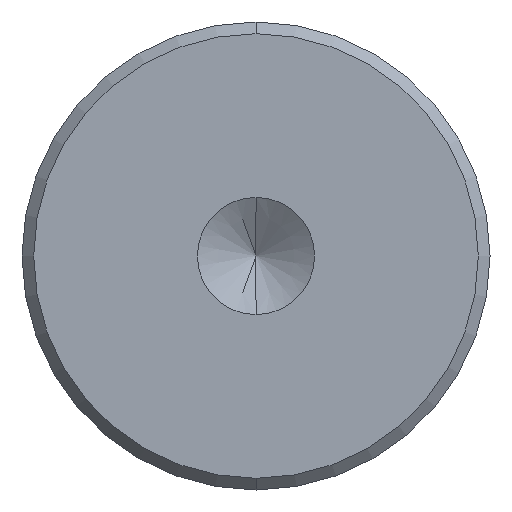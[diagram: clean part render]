
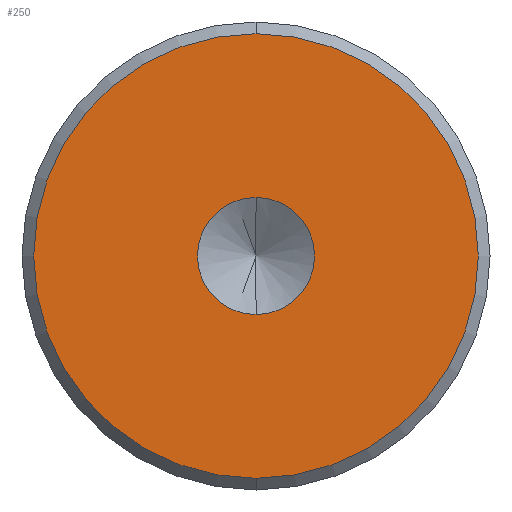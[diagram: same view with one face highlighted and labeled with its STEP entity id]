
A CAD part, front view. The second image highlights one B-rep face of the part: STEP entity #250.
In plain terms, the highlighted planar face has unit normal (0, -1, 0).
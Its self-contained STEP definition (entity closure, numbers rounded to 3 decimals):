
#14 = VERTEX_POINT ( 'NONE', #154 ) ;
#16 = CARTESIAN_POINT ( 'NONE',  ( 0., 0., 0. ) ) ;
#27 = CIRCLE ( 'NONE', #315, 2.5 ) ;
#40 = AXIS2_PLACEMENT_3D ( 'NONE', #475, #42, #211 ) ;
#42 = DIRECTION ( 'NONE',  ( 0., -1., 0. ) ) ;
#53 = DIRECTION ( 'NONE',  ( 0., -1., 0. ) ) ;
#62 = CARTESIAN_POINT ( 'NONE',  ( 0., 0., 0. ) ) ;
#65 = DIRECTION ( 'NONE',  ( 0., 0., 1. ) ) ;
#84 = FACE_OUTER_BOUND ( 'NONE', #212, .T. ) ;
#103 = DIRECTION ( 'NONE',  ( 0., -1., 0. ) ) ;
#109 = VERTEX_POINT ( 'NONE', #401 ) ;
#131 = AXIS2_PLACEMENT_3D ( 'NONE', #16, #53, #188 ) ;
#146 = AXIS2_PLACEMENT_3D ( 'NONE', #213, #360, #241 ) ;
#153 = DIRECTION ( 'NONE',  ( 0., 1., 0. ) ) ;
#154 = CARTESIAN_POINT ( 'NONE',  ( 0., 0., -9.5 ) ) ;
#162 = EDGE_LOOP ( 'NONE', ( #413, #178 ) ) ;
#169 = FACE_BOUND ( 'NONE', #162, .T. ) ;
#178 = ORIENTED_EDGE ( 'NONE', *, *, #218, .F. ) ;
#188 = DIRECTION ( 'NONE',  ( 0., 0., 1. ) ) ;
#189 = EDGE_CURVE ( 'NONE', #14, #448, #323, .T. ) ;
#211 = DIRECTION ( 'NONE',  ( 0., 0., 1. ) ) ;
#212 = EDGE_LOOP ( 'NONE', ( #254, #349 ) ) ;
#213 = CARTESIAN_POINT ( 'NONE',  ( 0., 0., 0. ) ) ;
#218 = EDGE_CURVE ( 'NONE', #353, #109, #370, .T. ) ;
#241 = DIRECTION ( 'NONE',  ( 0., 0., -1. ) ) ;
#243 = PLANE ( 'NONE',  #470 ) ;
#250 = ADVANCED_FACE ( 'NONE', ( #169, #84 ), #243, .F. ) ;
#254 = ORIENTED_EDGE ( 'NONE', *, *, #430, .T. ) ;
#308 = EDGE_CURVE ( 'NONE', #109, #353, #27, .T. ) ;
#315 = AXIS2_PLACEMENT_3D ( 'NONE', #447, #103, #381 ) ;
#323 = CIRCLE ( 'NONE', #40, 9.5 ) ;
#331 = CARTESIAN_POINT ( 'NONE',  ( 0., 0., 9.5 ) ) ;
#349 = ORIENTED_EDGE ( 'NONE', *, *, #189, .T. ) ;
#353 = VERTEX_POINT ( 'NONE', #379 ) ;
#360 = DIRECTION ( 'NONE',  ( 0., -1., 0. ) ) ;
#364 = CIRCLE ( 'NONE', #131, 9.5 ) ;
#370 = CIRCLE ( 'NONE', #146, 2.5 ) ;
#379 = CARTESIAN_POINT ( 'NONE',  ( 0., 0., 2.5 ) ) ;
#381 = DIRECTION ( 'NONE',  ( 0., 0., -1. ) ) ;
#401 = CARTESIAN_POINT ( 'NONE',  ( 0., 0., -2.5 ) ) ;
#413 = ORIENTED_EDGE ( 'NONE', *, *, #308, .F. ) ;
#430 = EDGE_CURVE ( 'NONE', #448, #14, #364, .T. ) ;
#447 = CARTESIAN_POINT ( 'NONE',  ( 0., 0., 0. ) ) ;
#448 = VERTEX_POINT ( 'NONE', #331 ) ;
#470 = AXIS2_PLACEMENT_3D ( 'NONE', #62, #153, #65 ) ;
#475 = CARTESIAN_POINT ( 'NONE',  ( 0., 0., 0. ) ) ;
